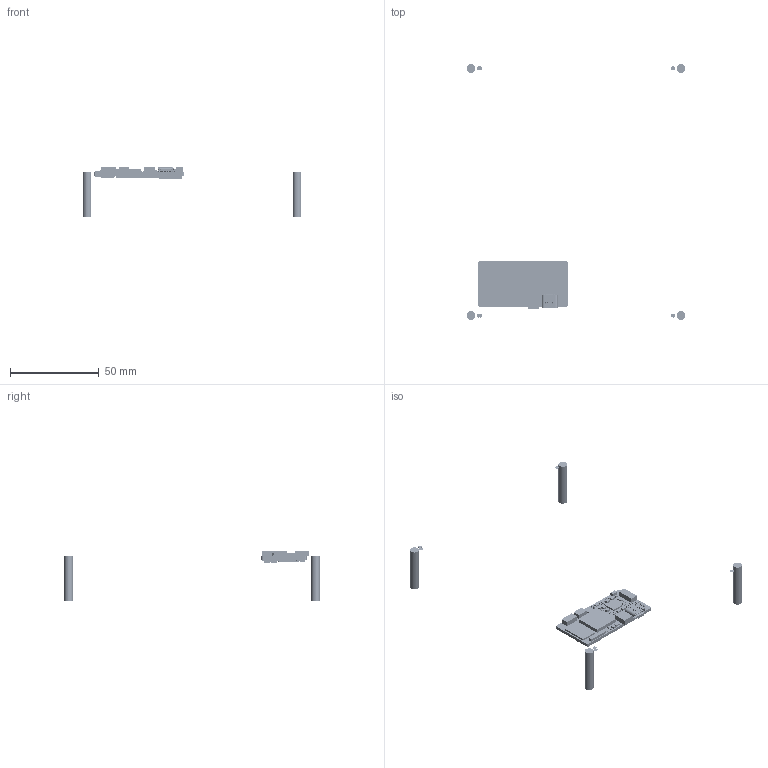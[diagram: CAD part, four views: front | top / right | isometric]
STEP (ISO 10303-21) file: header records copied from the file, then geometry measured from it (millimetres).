
FILE_DESCRIPTION(/* description */ ('PCB Design'),/* implementation_level */ '2;1');
FILE_NAME(/* name */ 'Jupiter_Nano_R2',/* time_stamp */ '2022-09-28T11:48:06+03:00',/* author */ (''),/* organization */ (''),/* preprocessor_version */ 'ST-DEVELOPER v16',/* originating_system */ 'allegro_17.2S083',/* authorisation */ '');
FILE_SCHEMA (('AUTOMOTIVE_DESIGN { 1 0 10303 214 3 1 1 }'));
Products named in the file (198): JUPITER_NANO_R2; BOARD_OUTLINE; EXTERNAL COPPER; TOP; PADS_TOP; CIRCLE_10001; CIRCLE_15001; RECT_1063X35431; CIRCLE_23621; OBLONG_3346X19691; RECT_4000X100001; RECT_1575X23621; RECT_2756X41341; RECT_4700X43001; RECT_3200X8001; RECT_2400X55001; RECT_2100X8001; RECT_2000X16001; CIRCLE_30001; SHAPE_CMPLX-1111-1_15-1_821; CIRCLE_35001; CIRCLE_20001; SHAPE_SH045X0711; SHAPE_SH10X11_SP1; SHAPE_SH10X11_RC21; SHAPE_OV20X20_PAD1; SHAPE_SH038X0401; RECT_2362X61021; RECT_4724X70871; RECT_4100X37001; RECT_2400X61001; RECT_4700X71001; RECT_2000X31001; OBLONG_900X33001; OBLONG_900X40001; RECT_7100X83001; RECT_7100X55001; RECT_800X35001; RECT_18500X185001; CIRCLE_11001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
Assembly tree (4999 placements, depth 5):
  JUPITER_NANO_R2
    BOARD_OUTLINE
    EXTERNAL COPPER
      TOP
        PADS_TOP
          CIRCLE_10001  x1737
          CIRCLE_15001  x21
          RECT_1063X35431  x24
          CIRCLE_23621
          OBLONG_3346X19691
          RECT_4000X100001  x4
          RECT_1575X23621  x16
          RECT_2756X41341  x2
          RECT_4700X43001
          RECT_3200X8001  x16
          RECT_2400X55001
          RECT_2100X8001  x16
          RECT_2000X16001  x5
          CIRCLE_30001  x6
          SHAPE_CMPLX-1111-1_15-1_821  x12
          CIRCLE_35001  x2
          CIRCLE_20001  x5
          SHAPE_SH045X0711  x2
          SHAPE_SH10X11_SP1  x6
          SHAPE_SH10X11_RC21  x30
          SHAPE_OV20X20_PAD1  x88
          SHAPE_SH038X0401  x14
          RECT_2362X61021  x10
          RECT_4724X70871  x4
          RECT_4100X37001  x4
          RECT_2400X61001  x8
          RECT_4700X71001  x2
          RECT_2000X31001  x8
          OBLONG_900X33001  x10
          OBLONG_900X40001  x9
          RECT_7100X83001  x2
          RECT_7100X55001  x2
          RECT_800X35001  x56
          RECT_18500X185001
          CIRCLE_11001  x72
          CIRCLE_11501  x200
          CIRCLE_105001  x4
          RECT_4000X70001  x2
          CIRCLE_97001  x4
        TRACES_TOP
        SHAPES_TOP
          SHAPE_1_VDD_ARM
          SHAPE_2_VDD_SOC
          SHAPE_3_VDD_SOC
          SHAPE_4_VSYS_5V
          SHAPE_5_VSYS_5V
          SHAPE_6_VSYS_5V
          SHAPE_7_VSYS_5V
          SHAPE_8_NVCC_DRAM_1V1
          SHAPE_9_VDD_1V8
          SHAPE_10_N106658448
          SHAPE_11_N106679133
          SHAPE_12_N106679105
          SHAPE_13_N106678828
          SHAPE_14_N106678929
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Bounding box: 123.09 x 144.04 x 28.69 mm (x, y, z)
Volume: 140.5 mm3; surface area: 10745.8 mm2
Topology: 98 solids, 5870 shells, 9185 faces, 29778 edges, 26430 vertices
Faces by surface type: plane 8703, cylinder 334, sphere 62, torus 36, bspline 28, cone 22
Full cylindrical faces by diameter (mm): 0.127 x1, 0.159 x1, 0.325 x1
Entity records: 182880 total; most frequent: CARTESIAN_POINT 29254, DIRECTION 23845, ORIENTED_EDGE 17924, AXIS2_PLACEMENT_3D 17314, EDGE_CURVE 14155, VERTEX_POINT 13819, VECTOR 10083, LINE 10083
